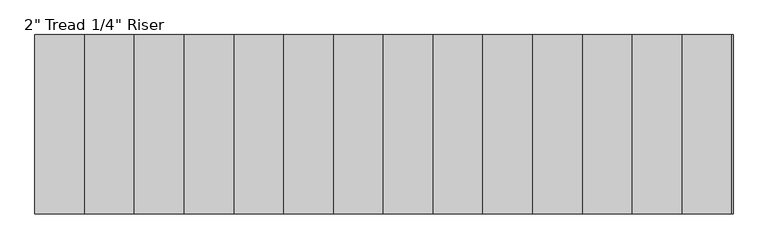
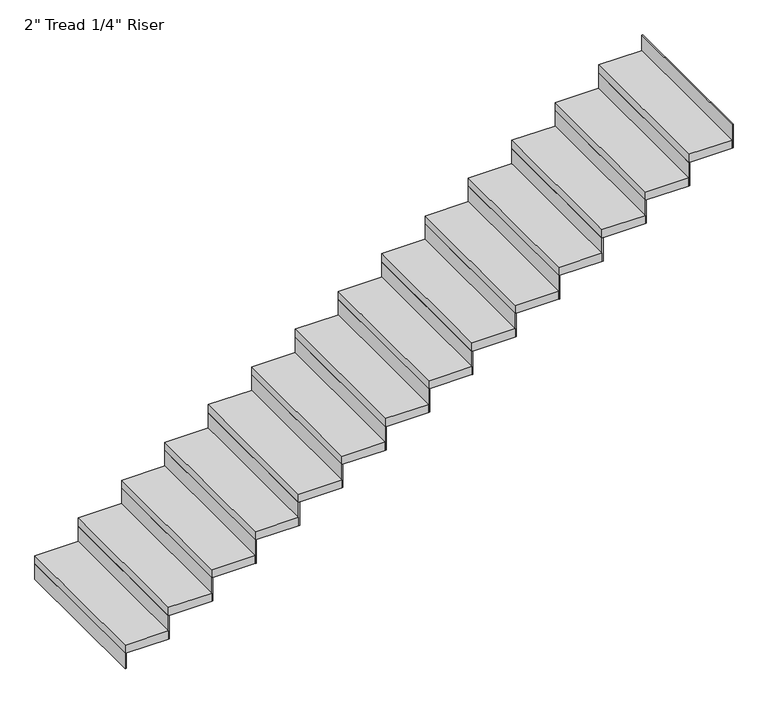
"""IFC4 building model written with IfcOpenShell, lengths in millimetres: stair flight geometry."""

import ifcopenshell
import ifcopenshell.guid

model = None  # the IFC model being written
_history = None  # IfcOwnerHistory: only IFC2X3 demands one
_inside = {}  # id of a spatial element -> (the spatial element, [elements in it])
_under = {}  # id of a project, library or spatial element -> (it, [spatial elements below it])
_declared = {}  # id of a project -> (the project, [libraries it declares])
_typed = {}  # id of a type object -> (the type object, [elements of that type])
_made_of = {}  # id of a material, layer set ... -> (it, [elements and type objects made of it])


def new_model(schema):
    """Start an empty IFC model of exactly this schema.

    Asked for "IFC4X3", IfcOpenShell would pick the latest addendum, in which some entities
    have other attributes; the version numbers below select the first issue.
    IFC2X3 requires an IfcOwnerHistory on every rooted entity: one is made here for all.
    """
    global model, _history
    if schema == "IFC4X3":
        model = ifcopenshell.file(schema_version=(4, 3, 0, 0))
    else:
        model = ifcopenshell.file(schema=schema)
    _inside.clear()
    _under.clear()
    _declared.clear()
    _typed.clear()
    _made_of.clear()
    _history = None
    if model.schema == "IFC2X3":
        org = make("IfcOrganization", Name="unknown")
        user = make(
            "IfcPersonAndOrganization",
            ThePerson=make("IfcPerson", FamilyName="unknown"),
            TheOrganization=org,
        )
        app = make(
            "IfcApplication",
            ApplicationDeveloper=org,
            Version="unknown",
            ApplicationFullName="unknown",
            ApplicationIdentifier="unknown",
        )
        _history = make(
            "IfcOwnerHistory",
            OwningUser=user,
            OwningApplication=app,
            ChangeAction="ADDED",
            CreationDate=0,
        )
    return model


def make(cls, **values):
    """One entity of the class cls with the attributes given. An attribute that is None is left unset."""
    return model.create_entity(
        cls, **{name: value for name, value in values.items() if value is not None}
    )


def rooted(cls, **values):
    """An entity with a GlobalId (a new one), such as an element, a storey or a relation."""
    return make(cls, GlobalId=ifcopenshell.guid.new(), OwnerHistory=_history, **values)


def si_unit(unit_type, name, prefix=None):
    """IfcSIUnit, for example si_unit("LENGTHUNIT", "METRE", prefix="MILLI")."""
    return make("IfcSIUnit", UnitType=unit_type, Prefix=prefix, Name=name)


def assignment(units):
    """IfcUnitAssignment: the units of a project."""
    return None if units is None else make("IfcUnitAssignment", Units=units)


def point(xyz):
    """IfcCartesianPoint."""
    return None if xyz is None else make("IfcCartesianPoint", Coordinates=xyz)


def direction(xyz):
    """IfcDirection."""
    return None if xyz is None else make("IfcDirection", DirectionRatios=xyz)


def frame(location, z_axis=None, x_axis=None):
    """IfcAxis2Placement3D, a coordinate frame: its origin and axes. An axis left out is left unset."""
    return make(
        "IfcAxis2Placement3D",
        Location=point(location),
        Axis=direction(z_axis),
        RefDirection=direction(x_axis),
    )


def origin():
    """The frame at (0, 0, 0) with its axes left unset."""
    return frame((0.0, 0.0, 0.0))


def origin_with_axes():
    """The frame at (0, 0, 0) with the z axis (0, 0, 1) and the x axis (1, 0, 0) written out."""
    return frame((0.0, 0.0, 0.0), z_axis=(0.0, 0.0, 1.0), x_axis=(1.0, 0.0, 0.0))


def place(relative_to, where):
    """IfcLocalPlacement: puts the frame where relative to a parent placement (None: the world)."""
    return make(
        "IfcLocalPlacement", PlacementRelTo=relative_to, RelativePlacement=where
    )


def context(
    kind, dimensions, precision=None, world=None, true_north=None, identifier=None
):
    """IfcGeometricRepresentationContext, for example the 3D "Model" context."""
    return make(
        "IfcGeometricRepresentationContext",
        ContextIdentifier=identifier,
        ContextType=kind,
        CoordinateSpaceDimension=dimensions,
        Precision=precision,
        WorldCoordinateSystem=world,
        TrueNorth=true_north,
    )


def project(units=None, contexts=None):
    """IfcProject with its units and contexts."""
    return rooted(
        "IfcProject",
        Name="project",
        RepresentationContexts=contexts,
        UnitsInContext=assignment(units),
    )


def spatial(cls, under=None, at=None, **own):
    """A site, building, storey or space (cls), placed at a placement, below another one or the project."""
    s = rooted(cls, ObjectPlacement=at, **own)
    if under is not None:
        _under.setdefault(under.id(), (under, []))[1].append(s)
    return s


def polyline(points):
    """IfcPolyline through the points."""
    return make("IfcPolyline", Points=[point(p) for p in points])


def outline(outer, holes=None, kind="AREA"):
    """IfcArbitraryClosedProfileDef: a profile drawn as a closed curve; with holes, ...WithVoids."""
    if holes is None:
        return make("IfcArbitraryClosedProfileDef", ProfileType=kind, OuterCurve=outer)
    return make(
        "IfcArbitraryProfileDefWithVoids",
        ProfileType=kind,
        OuterCurve=outer,
        InnerCurves=holes,
    )


def extrude(swept, where, along, depth):
    """IfcExtrudedAreaSolid: the profile swept, set in the frame where, extruded along a direction by depth."""
    return make(
        "IfcExtrudedAreaSolid",
        SweptArea=swept,
        Position=where,
        ExtrudedDirection=direction(along),
        Depth=depth,
    )


def shape(context_of_items, identifier, shape_type, items):
    """IfcShapeRepresentation: the items that make up one representation, for example the "Body"."""
    return make(
        "IfcShapeRepresentation",
        ContextOfItems=context_of_items,
        RepresentationIdentifier=identifier,
        RepresentationType=shape_type,
        Items=items,
    )


def source(mapping_origin, context_of_items, identifier, shape_type, items):
    """IfcRepresentationMap: a shape defined once, which mapped items show again and again."""
    return make(
        "IfcRepresentationMap",
        MappingOrigin=mapping_origin,
        MappedRepresentation=shape(context_of_items, identifier, shape_type, items),
    )


def transform(
    local_origin,
    x_axis=None,
    y_axis=None,
    z_axis=None,
    scale=None,
    scale2=None,
    scale3=None,
    uniform=True,
):
    """IfcCartesianTransformationOperator3D, or its non-uniform kind. x_axis, y_axis, z_axis: its Axis1, 2, 3."""
    if uniform:
        return make(
            "IfcCartesianTransformationOperator3D",
            Axis1=direction(x_axis),
            Axis2=direction(y_axis),
            LocalOrigin=point(local_origin),
            Scale=scale,
            Axis3=direction(z_axis),
        )
    return make(
        "IfcCartesianTransformationOperator3DnonUniform",
        Axis1=direction(x_axis),
        Axis2=direction(y_axis),
        LocalOrigin=point(local_origin),
        Scale=scale,
        Axis3=direction(z_axis),
        Scale2=scale2,
        Scale3=scale3,
    )


def mapped(mapping_source, mapping_target):
    """IfcMappedItem: shows the shape of a source again, moved by a transform."""
    return make(
        "IfcMappedItem", MappingSource=mapping_source, MappingTarget=mapping_target
    )


def made_of(thing, what):
    """Note that an element or type object is made of a material, layer set ...; save() writes the relation."""
    if what is not None:
        _made_of.setdefault(what.id(), (what, []))[1].append(thing)
    return thing


def element(
    cls,
    number,
    at=None,
    inside=None,
    cuts=None,
    type_object=None,
    material=None,
    context=None,
    identifier="Body",
    shape_type=None,
    held_by="IfcProductDefinitionShape",
    body=None,
    shapes=None,
    **own,
):
    """One element of the class cls, such as IfcWall. Its Tag is "e" and its number.

    at: its placement. inside: the storey or other place that contains it. cuts: it is an
    opening in that element (IfcRelVoidsElement). A single representation is given by context,
    identifier, shape_type and body (its items); several are given by shapes. held_by: the class
    of the entity that holds the representations. save() writes the other relations.
    """
    e = rooted(cls, Tag="e%d" % number, ObjectPlacement=at, **own)
    if body is not None:
        shapes = [shape(context, identifier, shape_type, body)]
    if shapes is not None:
        e.Representation = make(held_by, Representations=shapes)
    if inside is not None:
        _inside.setdefault(inside.id(), (inside, []))[1].append(e)
    if cuts is not None:
        rooted(
            "IfcRelVoidsElement", RelatingBuildingElement=cuts, RelatedOpeningElement=e
        )
    if type_object is not None:
        _typed.setdefault(type_object.id(), (type_object, []))[1].append(e)
    return made_of(e, material)


def aggregate(whole, parts):
    """IfcRelAggregates: a whole, such as a stair, and the parts it consists of."""
    return rooted("IfcRelAggregates", RelatingObject=whole, RelatedObjects=parts)


def save(model, path):
    """Write the relations noted so far, then the file.

    IfcRelAggregates (storeys below a building ...), IfcRelContainedInSpatialStructure (elements
    in a storey), IfcRelDefinesByType, IfcRelAssociatesMaterial and IfcRelDeclares: one each for
    every whole, place, type object, material and project.
    """
    for whole, parts in _under.values():
        aggregate(whole, parts)
    for where, things in _inside.values():
        rooted(
            "IfcRelContainedInSpatialStructure",
            RelatedElements=things,
            RelatingStructure=where,
        )
    for kind, things in _typed.values():
        rooted("IfcRelDefinesByType", RelatedObjects=things, RelatingType=kind)
    for what, things in _made_of.values():
        rooted("IfcRelAssociatesMaterial", RelatedObjects=things, RelatingMaterial=what)
    for by, libraries in _declared.values():
        rooted("IfcRelDeclares", RelatingContext=by, RelatedDefinitions=libraries)
    model.write(path)


def stair_flight_4cc94064(model_context):
    return source(origin(), model_context, "Body", "SweptSolid", [
        extrude(outline(polyline([(109152.4382982, -18948.6120358), (109146.0882982, -18948.6120358), (109146.0882982, -18034.2120358), (109152.4382982, -18034.2120358), (109152.4382982, -18948.6120358)])), origin_with_axes(), (0.0, 0.0, 1.0), 94.3428571),
        extrude(outline(polyline([(109400.0882982, -18034.2120358), (109400.0882982, -18948.6120358), (109146.0882982, -18948.6120358), (109146.0882982, -18034.2120358), (109400.0882982, -18034.2120358)])), frame((0.0, 0.0, 94.3428571), z_axis=(0.0, 0.0, 1.0), x_axis=(1.0, 0.0, 0.0)), (0.0, 0.0, 1.0), 50.8),
        extrude(outline(polyline([(109406.4382982, -18948.6120358), (109400.0882982, -18948.6120358), (109400.0882982, -18034.2120358), (109406.4382982, -18034.2120358), (109406.4382982, -18948.6120358)])), frame((0.0, 0.0, 94.3428571), z_axis=(0.0, 0.0, 1.0), x_axis=(1.0, 0.0, 0.0)), (0.0, 0.0, 1.0), 145.1428571),
        extrude(outline(polyline([(109654.0882982, -18034.2120358), (109654.0882982, -18948.6120358), (109400.0882982, -18948.6120358), (109400.0882982, -18034.2120358), (109654.0882982, -18034.2120358)])), frame((0.0, 0.0, 239.4857143), z_axis=(0.0, 0.0, 1.0), x_axis=(1.0, 0.0, 0.0)), (0.0, 0.0, 1.0), 50.8),
        extrude(outline(polyline([(109660.4382982, -18948.6120358), (109654.0882982, -18948.6120358), (109654.0882982, -18034.2120358), (109660.4382982, -18034.2120358), (109660.4382982, -18948.6120358)])), frame((0.0, 0.0, 239.4857143), z_axis=(0.0, 0.0, 1.0), x_axis=(1.0, 0.0, 0.0)), (0.0, 0.0, 1.0), 145.1428571),
        extrude(outline(polyline([(109908.0882982, -18034.2120358), (109908.0882982, -18948.6120358), (109654.0882982, -18948.6120358), (109654.0882982, -18034.2120358), (109908.0882982, -18034.2120358)])), frame((0.0, 0.0, 384.6285714), z_axis=(0.0, 0.0, 1.0), x_axis=(1.0, 0.0, 0.0)), (0.0, 0.0, 1.0), 50.8),
        extrude(outline(polyline([(109914.4382982, -18948.6120358), (109908.0882982, -18948.6120358), (109908.0882982, -18034.2120358), (109914.4382982, -18034.2120358), (109914.4382982, -18948.6120358)])), frame((0.0, 0.0, 384.6285714), z_axis=(0.0, 0.0, 1.0), x_axis=(1.0, 0.0, 0.0)), (0.0, 0.0, 1.0), 145.1428571),
        extrude(outline(polyline([(110162.0882982, -18034.2120358), (110162.0882982, -18948.6120358), (109908.0882982, -18948.6120358), (109908.0882982, -18034.2120358), (110162.0882982, -18034.2120358)])), frame((0.0, 0.0, 529.7714286), z_axis=(0.0, 0.0, 1.0), x_axis=(1.0, 0.0, 0.0)), (0.0, 0.0, 1.0), 50.8),
        extrude(outline(polyline([(110168.4382982, -18948.6120358), (110162.0882982, -18948.6120358), (110162.0882982, -18034.2120358), (110168.4382982, -18034.2120358), (110168.4382982, -18948.6120358)])), frame((0.0, 0.0, 529.7714286), z_axis=(0.0, 0.0, 1.0), x_axis=(1.0, 0.0, 0.0)), (0.0, 0.0, 1.0), 145.1428571),
        extrude(outline(polyline([(110416.0882982, -18034.2120358), (110416.0882982, -18948.6120358), (110162.0882982, -18948.6120358), (110162.0882982, -18034.2120358), (110416.0882982, -18034.2120358)])), frame((0.0, 0.0, 674.9142857), z_axis=(0.0, 0.0, 1.0), x_axis=(1.0, 0.0, 0.0)), (0.0, 0.0, 1.0), 50.8),
        extrude(outline(polyline([(110422.4382982, -18948.6120358), (110416.0882982, -18948.6120358), (110416.0882982, -18034.2120358), (110422.4382982, -18034.2120358), (110422.4382982, -18948.6120358)])), frame((0.0, 0.0, 674.9142857), z_axis=(0.0, 0.0, 1.0), x_axis=(1.0, 0.0, 0.0)), (0.0, 0.0, 1.0), 145.1428571),
        extrude(outline(polyline([(110670.0882982, -18034.2120358), (110670.0882982, -18948.6120358), (110416.0882982, -18948.6120358), (110416.0882982, -18034.2120358), (110670.0882982, -18034.2120358)])), frame((0.0, 0.0, 820.0571429), z_axis=(0.0, 0.0, 1.0), x_axis=(1.0, 0.0, 0.0)), (0.0, 0.0, 1.0), 50.8),
        extrude(outline(polyline([(110676.4382982, -18948.6120358), (110670.0882982, -18948.6120358), (110670.0882982, -18034.2120358), (110676.4382982, -18034.2120358), (110676.4382982, -18948.6120358)])), frame((0.0, 0.0, 820.0571429), z_axis=(0.0, 0.0, 1.0), x_axis=(1.0, 0.0, 0.0)), (0.0, 0.0, 1.0), 145.1428571),
        extrude(outline(polyline([(110924.0882982, -18034.2120358), (110924.0882982, -18948.6120358), (110670.0882982, -18948.6120358), (110670.0882982, -18034.2120358), (110924.0882982, -18034.2120358)])), frame((0.0, 0.0, 965.2), z_axis=(0.0, 0.0, 1.0), x_axis=(1.0, 0.0, 0.0)), (0.0, 0.0, 1.0), 50.8),
        extrude(outline(polyline([(110930.4382982, -18948.6120358), (110924.0882982, -18948.6120358), (110924.0882982, -18034.2120358), (110930.4382982, -18034.2120358), (110930.4382982, -18948.6120358)])), frame((0.0, 0.0, 965.2), z_axis=(0.0, 0.0, 1.0), x_axis=(1.0, 0.0, 0.0)), (0.0, 0.0, 1.0), 145.1428571),
        extrude(outline(polyline([(111178.0882982, -18034.2120358), (111178.0882982, -18948.6120358), (110924.0882982, -18948.6120358), (110924.0882982, -18034.2120358), (111178.0882982, -18034.2120358)])), frame((0.0, 0.0, 1110.3428571), z_axis=(0.0, 0.0, 1.0), x_axis=(1.0, 0.0, 0.0)), (0.0, 0.0, 1.0), 50.8),
        extrude(outline(polyline([(111184.4382982, -18948.6120358), (111178.0882982, -18948.6120358), (111178.0882982, -18034.2120358), (111184.4382982, -18034.2120358), (111184.4382982, -18948.6120358)])), frame((0.0, 0.0, 1110.3428571), z_axis=(0.0, 0.0, 1.0), x_axis=(1.0, 0.0, 0.0)), (0.0, 0.0, 1.0), 145.1428571),
        extrude(outline(polyline([(111432.0882982, -18034.2120358), (111432.0882982, -18948.6120358), (111178.0882982, -18948.6120358), (111178.0882982, -18034.2120358), (111432.0882982, -18034.2120358)])), frame((0.0, 0.0, 1255.4857143), z_axis=(0.0, 0.0, 1.0), x_axis=(1.0, 0.0, 0.0)), (0.0, 0.0, 1.0), 50.8),
        extrude(outline(polyline([(111438.4382982, -18948.6120358), (111432.0882982, -18948.6120358), (111432.0882982, -18034.2120358), (111438.4382982, -18034.2120358), (111438.4382982, -18948.6120358)])), frame((0.0, 0.0, 1255.4857143), z_axis=(0.0, 0.0, 1.0), x_axis=(1.0, 0.0, 0.0)), (0.0, 0.0, 1.0), 145.1428571),
        extrude(outline(polyline([(111686.0882982, -18034.2120358), (111686.0882982, -18948.6120358), (111432.0882982, -18948.6120358), (111432.0882982, -18034.2120358), (111686.0882982, -18034.2120358)])), frame((0.0, 0.0, 1400.6285714), z_axis=(0.0, 0.0, 1.0), x_axis=(1.0, 0.0, 0.0)), (0.0, 0.0, 1.0), 50.8),
        extrude(outline(polyline([(111692.4382982, -18948.6120358), (111686.0882982, -18948.6120358), (111686.0882982, -18034.2120358), (111692.4382982, -18034.2120358), (111692.4382982, -18948.6120358)])), frame((0.0, 0.0, 1400.6285714), z_axis=(0.0, 0.0, 1.0), x_axis=(1.0, 0.0, 0.0)), (0.0, 0.0, 1.0), 145.1428571),
        extrude(outline(polyline([(111940.0882982, -18034.2120358), (111940.0882982, -18948.6120358), (111686.0882982, -18948.6120358), (111686.0882982, -18034.2120358), (111940.0882982, -18034.2120358)])), frame((0.0, 0.0, 1545.7714286), z_axis=(0.0, 0.0, 1.0), x_axis=(1.0, 0.0, 0.0)), (0.0, 0.0, 1.0), 50.8),
        extrude(outline(polyline([(111946.4382982, -18948.6120358), (111940.0882982, -18948.6120358), (111940.0882982, -18034.2120358), (111946.4382982, -18034.2120358), (111946.4382982, -18948.6120358)])), frame((0.0, 0.0, 1545.7714286), z_axis=(0.0, 0.0, 1.0), x_axis=(1.0, 0.0, 0.0)), (0.0, 0.0, 1.0), 145.1428571),
        extrude(outline(polyline([(112194.0882982, -18034.2120358), (112194.0882982, -18948.6120358), (111940.0882982, -18948.6120358), (111940.0882982, -18034.2120358), (112194.0882982, -18034.2120358)])), frame((0.0, 0.0, 1690.9142857), z_axis=(0.0, 0.0, 1.0), x_axis=(1.0, 0.0, 0.0)), (0.0, 0.0, 1.0), 50.8),
        extrude(outline(polyline([(112200.4382982, -18948.6120358), (112194.0882982, -18948.6120358), (112194.0882982, -18034.2120358), (112200.4382982, -18034.2120358), (112200.4382982, -18948.6120358)])), frame((0.0, 0.0, 1690.9142857), z_axis=(0.0, 0.0, 1.0), x_axis=(1.0, 0.0, 0.0)), (0.0, 0.0, 1.0), 145.1428571),
        extrude(outline(polyline([(112448.0882982, -18034.2120358), (112448.0882982, -18948.6120358), (112194.0882982, -18948.6120358), (112194.0882982, -18034.2120358), (112448.0882982, -18034.2120358)])), frame((0.0, 0.0, 1836.0571429), z_axis=(0.0, 0.0, 1.0), x_axis=(1.0, 0.0, 0.0)), (0.0, 0.0, 1.0), 50.8),
        extrude(outline(polyline([(112454.4382982, -18948.6120358), (112448.0882982, -18948.6120358), (112448.0882982, -18034.2120358), (112454.4382982, -18034.2120358), (112454.4382982, -18948.6120358)])), frame((0.0, 0.0, 1836.0571429), z_axis=(0.0, 0.0, 1.0), x_axis=(1.0, 0.0, 0.0)), (0.0, 0.0, 1.0), 145.1428571),
        extrude(outline(polyline([(112708.4382982, -18948.6120358), (112702.0882982, -18948.6120358), (112702.0882982, -18034.2120358), (112708.4382982, -18034.2120358), (112708.4382982, -18948.6120358)])), frame((0.0, 0.0, 1981.2), z_axis=(0.0, 0.0, 1.0), x_axis=(1.0, 0.0, 0.0)), (0.0, 0.0, 1.0), 145.1428571),
        extrude(outline(polyline([(112702.0882982, -18034.2120358), (112702.0882982, -18948.6120358), (112448.0882982, -18948.6120358), (112448.0882982, -18034.2120358), (112702.0882982, -18034.2120358)])), frame((0.0, 0.0, 1981.2), z_axis=(0.0, 0.0, 1.0), x_axis=(1.0, 0.0, 0.0)), (0.0, 0.0, 1.0), 50.8),
    ])


if __name__ == "__main__":
    model = new_model("IFC4")
    model_context = context("Model", 3, world=origin())
    ifc_project = project(units=[si_unit("LENGTHUNIT", "METRE", prefix="MILLI")], contexts=[model_context])
    site = spatial("IfcSite", under=ifc_project)
    building = spatial("IfcBuilding", under=site)
    placement = place(None, origin())
    stair_flight_shape = stair_flight_4cc94064(model_context)
    element("IfcStairFlight", 1, ObjectType="2\" Tread 1/4\" Riser", at=placement, inside=building, context=model_context, shape_type="MappedRepresentation", body=[
        mapped(stair_flight_shape, transform((0.0, 0.0, 0.0), x_axis=(1.0, 0.0, 0.0), y_axis=(0.0, 1.0, 0.0), z_axis=(0.0, 0.0, 1.0))),
    ])
    save(model, "model.ifc")
